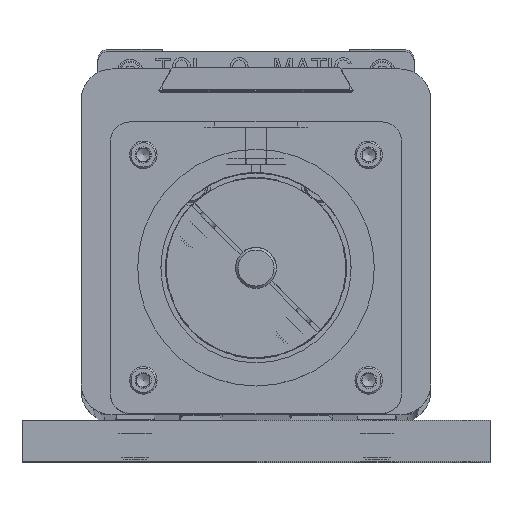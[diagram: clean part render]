
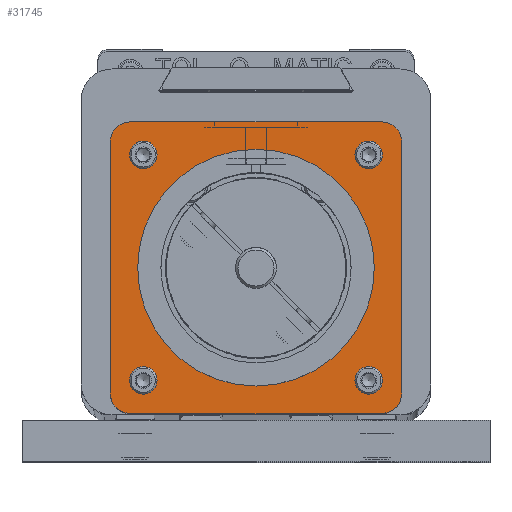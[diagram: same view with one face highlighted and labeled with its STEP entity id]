
A CAD part, top view. The second image highlights one B-rep face of the part: STEP entity #31745.
In plain terms, the highlighted planar face has unit normal (0, 0, 1).
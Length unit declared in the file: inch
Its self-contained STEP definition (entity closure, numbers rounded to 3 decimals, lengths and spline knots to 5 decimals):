
#225 = DIRECTION ( 'NONE',  ( 0., 0., 1. ) ) ;
#383 = ORIENTED_EDGE ( 'NONE', *, *, #31238, .F. ) ;
#738 = CIRCLE ( 'NONE', #17651, 1.4385 ) ;
#1440 = CARTESIAN_POINT ( 'NONE',  ( 0., 0., 5.295 ) ) ;
#1525 = CARTESIAN_POINT ( 'NONE',  ( 1.5225, 1.7725, 5.295 ) ) ;
#2441 = ORIENTED_EDGE ( 'NONE', *, *, #40907, .T. ) ;
#2641 = CARTESIAN_POINT ( 'NONE',  ( 1.37002, -1.46847, 5.295 ) ) ;
#3545 = AXIS2_PLACEMENT_3D ( 'NONE', #16727, #23215, #30820 ) ;
#3700 = EDGE_CURVE ( 'NONE', #24272, #24272, #738, .T. ) ;
#3859 = EDGE_CURVE ( 'NONE', #27613, #41095, #44991, .T. ) ;
#4028 = CARTESIAN_POINT ( 'NONE',  ( -1.5225, 1.5225, 5.295 ) ) ;
#4431 = EDGE_CURVE ( 'NONE', #11435, #8600, #42420, .T. ) ;
#4786 = DIRECTION ( 'NONE',  ( 0., 0., 1. ) ) ;
#4904 = VECTOR ( 'NONE', #25217, 39.37008 ) ;
#5085 = DIRECTION ( 'NONE',  ( 0., 0., 1. ) ) ;
#5374 = VERTEX_POINT ( 'NONE', #13372 ) ;
#5507 = CARTESIAN_POINT ( 'NONE',  ( -1.7725, -1.5225, 5.295 ) ) ;
#5623 = DIRECTION ( 'NONE',  ( -1., 0., 0. ) ) ;
#5644 = CARTESIAN_POINT ( 'NONE',  ( 1.46847, 1.37002, 5.295 ) ) ;
#5787 = DIRECTION ( 'NONE',  ( 0., 1., 0. ) ) ;
#7491 = CIRCLE ( 'NONE', #21488, 0.09845 ) ;
#7688 = ORIENTED_EDGE ( 'NONE', *, *, #4431, .T. ) ;
#8207 = DIRECTION ( 'NONE',  ( 1., 0., 0. ) ) ;
#8425 = VECTOR ( 'NONE', #39113, 39.37008 ) ;
#8600 = VERTEX_POINT ( 'NONE', #24901 ) ;
#9287 = AXIS2_PLACEMENT_3D ( 'NONE', #33221, #15225, #29754 ) ;
#9313 = FACE_OUTER_BOUND ( 'NONE', #12463, .T. ) ;
#9391 = EDGE_LOOP ( 'NONE', ( #22031 ) ) ;
#9426 = VERTEX_POINT ( 'NONE', #9572 ) ;
#9541 = PLANE ( 'NONE',  #18562 ) ;
#9572 = CARTESIAN_POINT ( 'NONE',  ( 1.5225, -1.7725, 5.295 ) ) ;
#10961 = LINE ( 'NONE', #25039, #8425 ) ;
#11431 = VECTOR ( 'NONE', #5787, 39.37008 ) ;
#11435 = VERTEX_POINT ( 'NONE', #19137 ) ;
#11847 = EDGE_LOOP ( 'NONE', ( #24542 ) ) ;
#12463 = EDGE_LOOP ( 'NONE', ( #37384, #2441, #38777, #13305, #17392, #7688, #41616, #35381 ) ) ;
#12769 = FACE_BOUND ( 'NONE', #9391, .T. ) ;
#13305 = ORIENTED_EDGE ( 'NONE', *, *, #41276, .T. ) ;
#13372 = CARTESIAN_POINT ( 'NONE',  ( -1.37002, 1.46847, 5.295 ) ) ;
#14409 = EDGE_CURVE ( 'NONE', #44977, #11435, #10961, .T. ) ;
#15216 = DIRECTION ( 'NONE',  ( 0., 0., 1. ) ) ;
#15225 = DIRECTION ( 'NONE',  ( 0., 0., 1. ) ) ;
#15686 = CARTESIAN_POINT ( 'NONE',  ( 1.37002, 1.37002, 5.295 ) ) ;
#16240 = AXIS2_PLACEMENT_3D ( 'NONE', #43541, #4786, #32679 ) ;
#16391 = CARTESIAN_POINT ( 'NONE',  ( 1.7725, 1.5225, 5.295 ) ) ;
#16727 = CARTESIAN_POINT ( 'NONE',  ( -1.37002, 1.37002, 5.295 ) ) ;
#17392 = ORIENTED_EDGE ( 'NONE', *, *, #14409, .T. ) ;
#17646 = DIRECTION ( 'NONE',  ( 0., 0., 1. ) ) ;
#17650 = CARTESIAN_POINT ( 'NONE',  ( -1.5225, -1.7725, 5.295 ) ) ;
#17651 = AXIS2_PLACEMENT_3D ( 'NONE', #1440, #22425, #18731 ) ;
#17745 = CARTESIAN_POINT ( 'NONE',  ( 1.5225, 1.5225, 5.295 ) ) ;
#17957 = DIRECTION ( 'NONE',  ( 0., -1., 0. ) ) ;
#18507 = EDGE_CURVE ( 'NONE', #8600, #21467, #29363, .T. ) ;
#18562 = AXIS2_PLACEMENT_3D ( 'NONE', #31009, #33755, #23164 ) ;
#18682 = CARTESIAN_POINT ( 'NONE',  ( 1.37002, -1.37002, 5.295 ) ) ;
#18731 = DIRECTION ( 'NONE',  ( 0., 1., 0. ) ) ;
#18924 = DIRECTION ( 'NONE',  ( 0., -1., 0. ) ) ;
#19137 = CARTESIAN_POINT ( 'NONE',  ( -1.5225, 1.7725, 5.295 ) ) ;
#20066 = CARTESIAN_POINT ( 'NONE',  ( 1.7725, 1.5225, 5.295 ) ) ;
#20358 = CIRCLE ( 'NONE', #32908, 0.25 ) ;
#20493 = VECTOR ( 'NONE', #8207, 39.37008 ) ;
#21205 = EDGE_LOOP ( 'NONE', ( #383 ) ) ;
#21467 = VERTEX_POINT ( 'NONE', #5507 ) ;
#21488 = AXIS2_PLACEMENT_3D ( 'NONE', #18682, #15216, #18924 ) ;
#22031 = ORIENTED_EDGE ( 'NONE', *, *, #3700, .T. ) ;
#22425 = DIRECTION ( 'NONE',  ( 0., 0., -1. ) ) ;
#23164 = DIRECTION ( 'NONE',  ( 0., -1., 0. ) ) ;
#23215 = DIRECTION ( 'NONE',  ( 0., 0., 1. ) ) ;
#23428 = CIRCLE ( 'NONE', #3545, 0.09845 ) ;
#24272 = VERTEX_POINT ( 'NONE', #28407 ) ;
#24542 = ORIENTED_EDGE ( 'NONE', *, *, #30588, .F. ) ;
#24901 = CARTESIAN_POINT ( 'NONE',  ( -1.7725, 1.5225, 5.295 ) ) ;
#25039 = CARTESIAN_POINT ( 'NONE',  ( 1.5225, 1.7725, 5.295 ) ) ;
#25040 = CARTESIAN_POINT ( 'NONE',  ( 1.7725, -1.5225, 5.295 ) ) ;
#25217 = DIRECTION ( 'NONE',  ( 0., -1., 0. ) ) ;
#26764 = EDGE_LOOP ( 'NONE', ( #45249 ) ) ;
#26980 = CIRCLE ( 'NONE', #9287, 0.25 ) ;
#27091 = VERTEX_POINT ( 'NONE', #2641 ) ;
#27613 = VERTEX_POINT ( 'NONE', #25040 ) ;
#28407 = CARTESIAN_POINT ( 'NONE',  ( 0., 1.4385, 5.295 ) ) ;
#29166 = AXIS2_PLACEMENT_3D ( 'NONE', #4028, #17646, #36090 ) ;
#29363 = LINE ( 'NONE', #43432, #4904 ) ;
#29408 = VERTEX_POINT ( 'NONE', #17650 ) ;
#29754 = DIRECTION ( 'NONE',  ( 0., -1., 0. ) ) ;
#29771 = EDGE_LOOP ( 'NONE', ( #32020 ) ) ;
#30295 = EDGE_CURVE ( 'NONE', #21467, #29408, #41296, .T. ) ;
#30588 = EDGE_CURVE ( 'NONE', #33110, #33110, #33234, .T. ) ;
#30760 = DIRECTION ( 'NONE',  ( 0., 0., 1. ) ) ;
#30820 = DIRECTION ( 'NONE',  ( 0., 1., 0. ) ) ;
#31009 = CARTESIAN_POINT ( 'NONE',  ( -2.5, 2.63102, 5.295 ) ) ;
#31238 = EDGE_CURVE ( 'NONE', #27091, #27091, #7491, .T. ) ;
#31456 = AXIS2_PLACEMENT_3D ( 'NONE', #15686, #5085, #32299 ) ;
#31745 = ADVANCED_FACE ( 'NONE', ( #38138, #41136, #45059, #34202, #12769, #9313 ), #9541, .T. ) ;
#32020 = ORIENTED_EDGE ( 'NONE', *, *, #43156, .F. ) ;
#32290 = EDGE_CURVE ( 'NONE', #37706, #37706, #36632, .T. ) ;
#32299 = DIRECTION ( 'NONE',  ( 1., 0., 0. ) ) ;
#32679 = DIRECTION ( 'NONE',  ( 0., -1., 0. ) ) ;
#32908 = AXIS2_PLACEMENT_3D ( 'NONE', #17745, #225, #17957 ) ;
#33110 = VERTEX_POINT ( 'NONE', #36805 ) ;
#33221 = CARTESIAN_POINT ( 'NONE',  ( 1.5225, -1.5225, 5.295 ) ) ;
#33234 = CIRCLE ( 'NONE', #36896, 0.09845 ) ;
#33755 = DIRECTION ( 'NONE',  ( 0., 0., 1. ) ) ;
#34202 = FACE_BOUND ( 'NONE', #21205, .T. ) ;
#35381 = ORIENTED_EDGE ( 'NONE', *, *, #30295, .T. ) ;
#36090 = DIRECTION ( 'NONE',  ( 0., -1., 0. ) ) ;
#36632 = CIRCLE ( 'NONE', #31456, 0.09845 ) ;
#36805 = CARTESIAN_POINT ( 'NONE',  ( -1.46847, -1.37002, 5.295 ) ) ;
#36896 = AXIS2_PLACEMENT_3D ( 'NONE', #44142, #30760, #5623 ) ;
#37384 = ORIENTED_EDGE ( 'NONE', *, *, #45085, .T. ) ;
#37706 = VERTEX_POINT ( 'NONE', #5644 ) ;
#38138 = FACE_BOUND ( 'NONE', #11847, .T. ) ;
#38777 = ORIENTED_EDGE ( 'NONE', *, *, #3859, .T. ) ;
#39113 = DIRECTION ( 'NONE',  ( -1., 0., 0. ) ) ;
#39813 = LINE ( 'NONE', #40259, #20493 ) ;
#40259 = CARTESIAN_POINT ( 'NONE',  ( 1.5225, -1.7725, 5.295 ) ) ;
#40907 = EDGE_CURVE ( 'NONE', #9426, #27613, #26980, .T. ) ;
#41095 = VERTEX_POINT ( 'NONE', #20066 ) ;
#41136 = FACE_BOUND ( 'NONE', #29771, .T. ) ;
#41276 = EDGE_CURVE ( 'NONE', #41095, #44977, #20358, .T. ) ;
#41296 = CIRCLE ( 'NONE', #16240, 0.25 ) ;
#41616 = ORIENTED_EDGE ( 'NONE', *, *, #18507, .T. ) ;
#42420 = CIRCLE ( 'NONE', #29166, 0.25 ) ;
#43156 = EDGE_CURVE ( 'NONE', #5374, #5374, #23428, .T. ) ;
#43432 = CARTESIAN_POINT ( 'NONE',  ( -1.7725, 1.5225, 5.295 ) ) ;
#43541 = CARTESIAN_POINT ( 'NONE',  ( -1.5225, -1.5225, 5.295 ) ) ;
#44142 = CARTESIAN_POINT ( 'NONE',  ( -1.37002, -1.37002, 5.295 ) ) ;
#44977 = VERTEX_POINT ( 'NONE', #1525 ) ;
#44991 = LINE ( 'NONE', #16391, #11431 ) ;
#45059 = FACE_BOUND ( 'NONE', #26764, .T. ) ;
#45085 = EDGE_CURVE ( 'NONE', #29408, #9426, #39813, .T. ) ;
#45249 = ORIENTED_EDGE ( 'NONE', *, *, #32290, .F. ) ;
